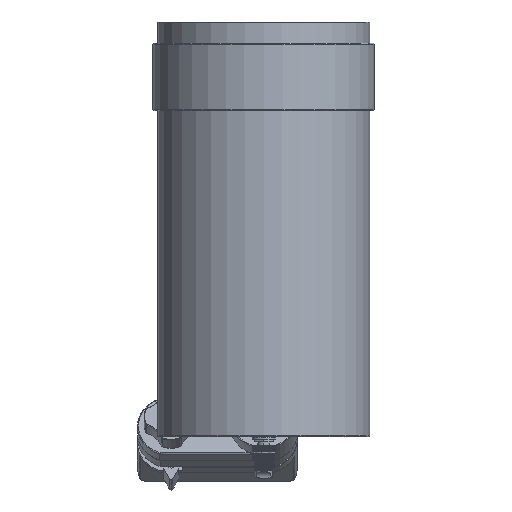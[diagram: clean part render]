
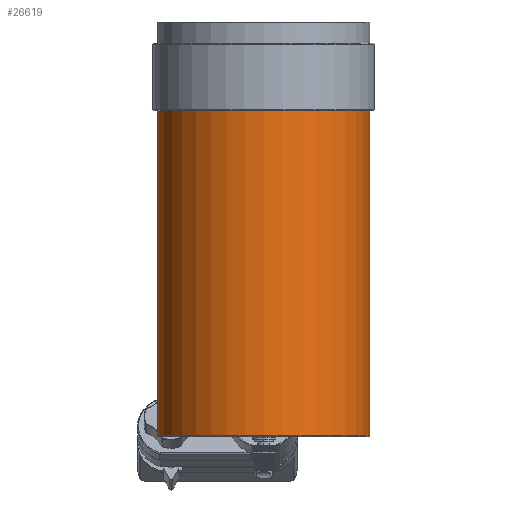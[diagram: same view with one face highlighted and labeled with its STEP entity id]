
A CAD part, front view. The second image highlights one B-rep face of the part: STEP entity #26619.
In plain terms, the highlighted cylindrical face has radius 55 mm (diameter 110 mm), a partial arc.
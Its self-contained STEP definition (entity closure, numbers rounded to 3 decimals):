
#8041=DIRECTION('',(0.,0.,-1.));
#8042=VECTOR('',#8041,181.2);
#8043=CARTESIAN_POINT('',(55.,0.,74.));
#8044=LINE('',#8043,#8042);
#8050=DIRECTION('',(0.,0.,-1.));
#8051=VECTOR('',#8050,181.2);
#8052=CARTESIAN_POINT('',(-55.,0.,74.));
#8053=LINE('',#8052,#8051);
#8068=CARTESIAN_POINT('',(0.,0.,-107.2));
#8069=DIRECTION('',(0.,0.,-1.));
#8070=DIRECTION('',(1.,0.,0.));
#8071=AXIS2_PLACEMENT_3D('',#8068,#8069,#8070);
#8073=CARTESIAN_POINT('',(0.,0.,74.));
#8074=DIRECTION('',(0.,0.,-1.));
#8075=DIRECTION('',(1.,0.,0.));
#8076=AXIS2_PLACEMENT_3D('',#8073,#8074,#8075);
#9693=CARTESIAN_POINT('',(55.,0.,74.));
#9694=CARTESIAN_POINT('',(-55.,0.,74.));
#9695=VERTEX_POINT('',#9693);
#9696=VERTEX_POINT('',#9694);
#12481=CARTESIAN_POINT('',(-55.,0.,-107.2));
#12482=VERTEX_POINT('',#12481);
#12483=CARTESIAN_POINT('',(55.,0.,-107.2));
#12484=VERTEX_POINT('',#12483);
#26607=CARTESIAN_POINT('',(0.,0.,118.25));
#26608=DIRECTION('',(0.,0.,-1.));
#26609=DIRECTION('',(1.,0.,0.));
#26610=AXIS2_PLACEMENT_3D('',#26607,#26608,#26609);
#26611=CYLINDRICAL_SURFACE('',#26610,55.);
#26612=ORIENTED_EDGE('',*,*,#26589,.T.);
#26613=ORIENTED_EDGE('',*,*,#26569,.F.);
#26615=ORIENTED_EDGE('',*,*,#26614,.F.);
#26616=ORIENTED_EDGE('',*,*,#26565,.T.);
#26617=EDGE_LOOP('',(#26612,#26613,#26615,#26616));
#26618=FACE_OUTER_BOUND('',#26617,.F.);
#8072=CIRCLE('',#8071,55.);
#8077=CIRCLE('',#8076,55.);
#26565=EDGE_CURVE('',#9695,#12484,#8044,.T.);
#26569=EDGE_CURVE('',#9696,#12482,#8053,.T.);
#26589=EDGE_CURVE('',#12484,#12482,#8072,.T.);
#26614=EDGE_CURVE('',#9695,#9696,#8077,.T.);
#26619=ADVANCED_FACE('',(#26618),#26611,.T.);
